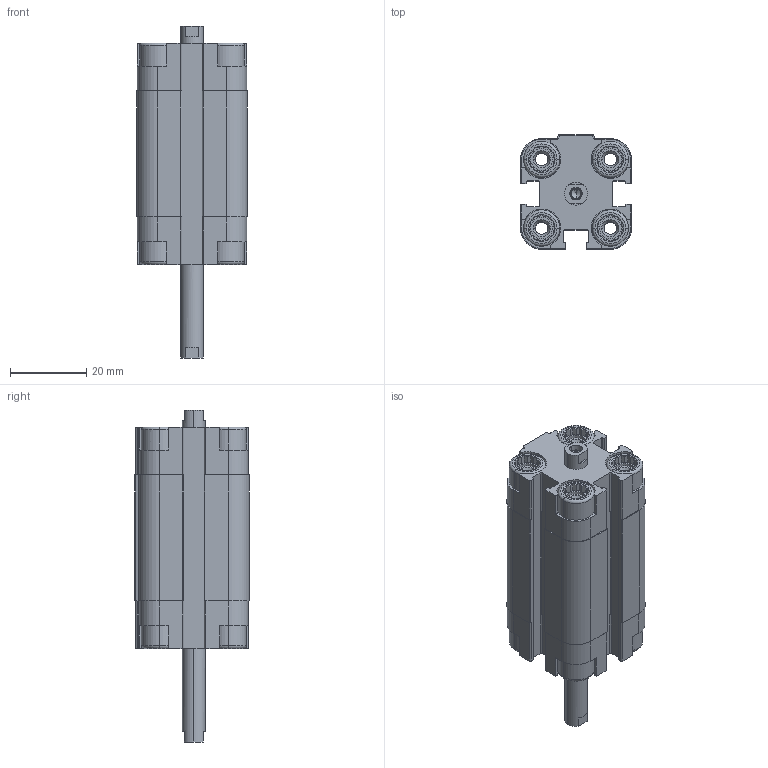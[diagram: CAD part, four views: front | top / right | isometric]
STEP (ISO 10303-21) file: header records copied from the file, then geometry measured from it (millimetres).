
FILE_DESCRIPTION (( 'STEP AP203' ), '1' );
FILE_NAME ('CDVU12-20F-P.STEP', '2020-07-24T18:01:19', ( '' ), ( '' ), 'SwSTEP 2.0', 'SolidWorks 2019', '' );
FILE_SCHEMA (( 'CONFIG_CONTROL_DESIGN' ));
Length unit declared in the file: millimetre
Products named in the file (1): CDVU12-20F-P
Bounding box: 29 x 30 x 87 mm (x, y, z)
Volume: 35729.1 mm3; surface area: 18851.7 mm2
Topology: 2 solids, 2 shells, 566 faces, 1508 edges, 980 vertices
Faces by surface type: plane 338, cylinder 164, cone 48, torus 16
Entity records: 17779 total; most frequent: CARTESIAN_POINT 3623, ORIENTED_EDGE 3000, DIRECTION 2850, EDGE_CURVE 1500, VERTEX_POINT 980, AXIS2_PLACEMENT_3D 975, VECTOR 900, LINE 900
